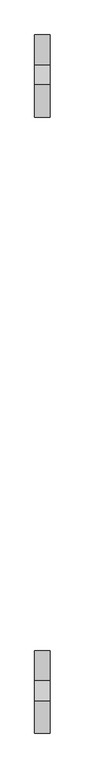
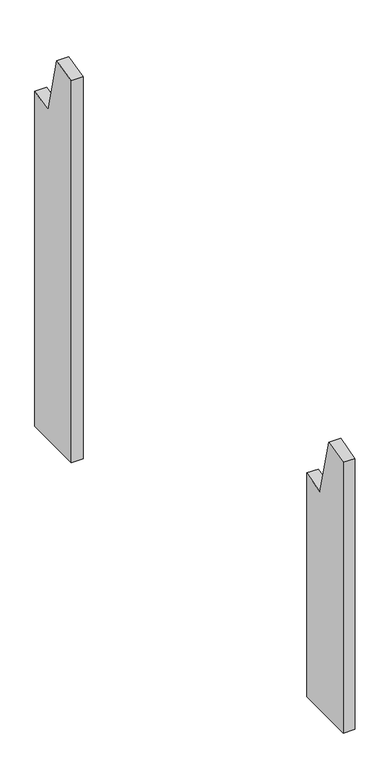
"""IFC4 building model written with IfcOpenShell, lengths in millimetres: proxy geometry, Modelos genéricos 68 : Modelos genéricos 5."""

from ifc_helpers import new_model, si_unit, frame, origin, place, context, project, spatial, polyline, outline, extrude, source, transform, mapped, element, save


def generic_models_f2ca6f04(model_context):
    return source(origin(), model_context, "Body", "SweptSolid", [
        extrude(outline(polyline([(628.6238165, 3000.0), (468.6238165, 3000.0), (468.6238165, 4023.0972283), (531.6985696, 4038.8235305), (570.4060729, 3883.5762143), (628.6238165, 3898.0915281), (628.6238165, 3000.0)])), frame((-1666.5527533, 0.0, 0.0), z_axis=(1.0, 0.0, 0.0), x_axis=(0.0, 1.0, 0.0)), (0.0, 0.0, 1.0), 30.0),
        extrude(outline(polyline([(-566.3761835, 3000.0), (-726.3761835, 3000.0), (-726.3761835, 3725.1502649), (-663.3014304, 3740.8765671), (-624.5939271, 3585.6292509), (-566.3761835, 3600.1445647), (-566.3761835, 3000.0)])), frame((-1666.5527533, 0.0, 0.0), z_axis=(1.0, 0.0, 0.0), x_axis=(0.0, 1.0, 0.0)), (0.0, 0.0, 1.0), 30.0),
    ])


if __name__ == "__main__":
    model = new_model("IFC4")
    model_context = context("Model", 3, world=origin())
    ifc_project = project(units=[si_unit("LENGTHUNIT", "METRE", prefix="MILLI")], contexts=[model_context])
    site = spatial("IfcSite", under=ifc_project)
    building = spatial("IfcBuilding", under=site)
    placement = place(None, origin())
    generic_models_shape = generic_models_f2ca6f04(model_context)
    element("IfcBuildingElementProxy", 1, Name="Modelos genéricos 68 : Modelos genéricos 5", ObjectType="Modelos genéricos 68 : Modelos genéricos 5", at=placement, inside=building, context=model_context, shape_type="MappedRepresentation", body=[
        mapped(generic_models_shape, transform((0.0, 0.0, 0.0), x_axis=(1.0, 0.0, 0.0), y_axis=(0.0, 1.0, 0.0), z_axis=(0.0, 0.0, 1.0))),
    ])
    save(model, "model.ifc")
